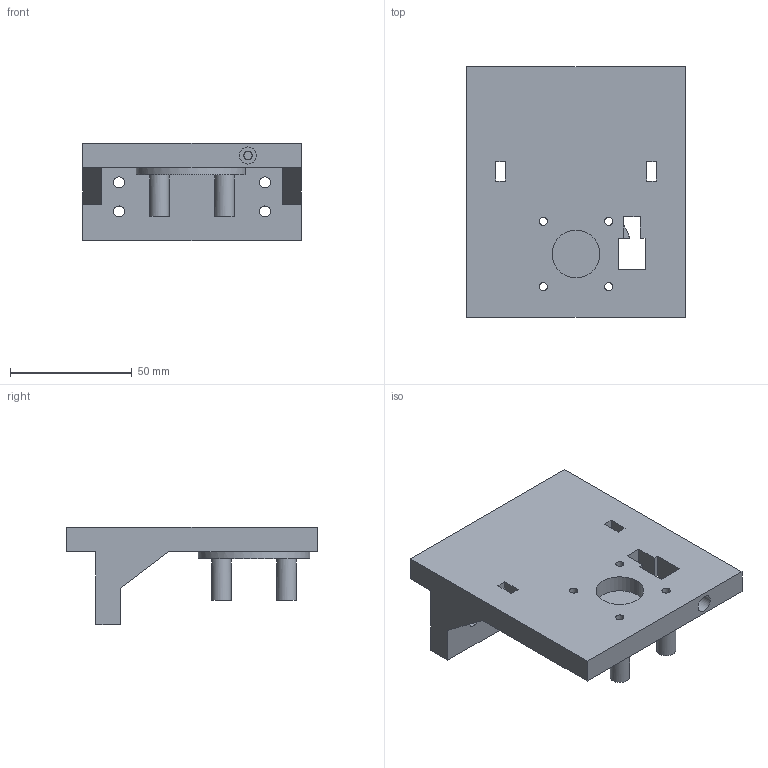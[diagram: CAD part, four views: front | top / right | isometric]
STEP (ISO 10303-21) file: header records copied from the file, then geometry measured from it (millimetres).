
FILE_DESCRIPTION(('Open CASCADE Model'),'2;1');
FILE_NAME('Open CASCADE Shape Model','2026-11-12T20:35:42',('Author'),( 'Open CASCADE'),'Open CASCADE STEP processor 7.9','Open CASCADE 7.9' ,'Unknown');
FILE_SCHEMA(('AUTOMOTIVE_DESIGN { 1 0 10303 214 1 1 1 1 }'));
Length unit declared in the file: millimetre
Products named in the file (1): Open CASCADE STEP translator 7.9 1
Bounding box: 90 x 103 x 40 mm (x, y, z)
Volume: 121199.3 mm3; surface area: 34379.5 mm2
Topology: 1 solids, 1 shells, 56 faces, 148 edges, 97 vertices
Faces by surface type: plane 39, cylinder 17
Full cylindrical faces by diameter (mm): 3.4 x5, 4.5 x4, 7 x1, 8 x4, 19.6 x1, 26 x1
Entity records: 3675 total; most frequent: CARTESIAN_POINT 678, DIRECTION 535, ORIENTED_EDGE 296, PCURVE 296, DEFINITIONAL_REPRESENTATION 296, LINE 294, VECTOR 294, EDGE_CURVE 148
